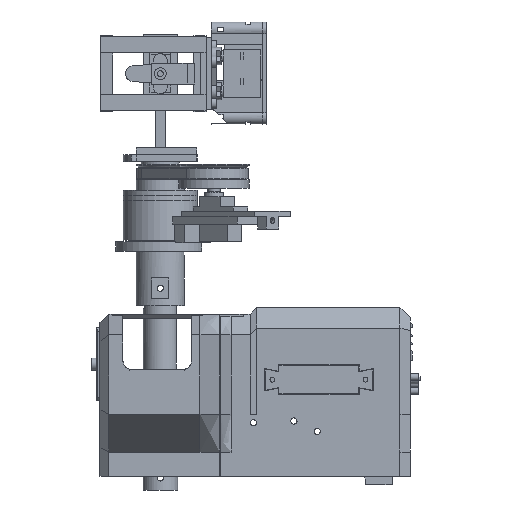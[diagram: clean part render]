
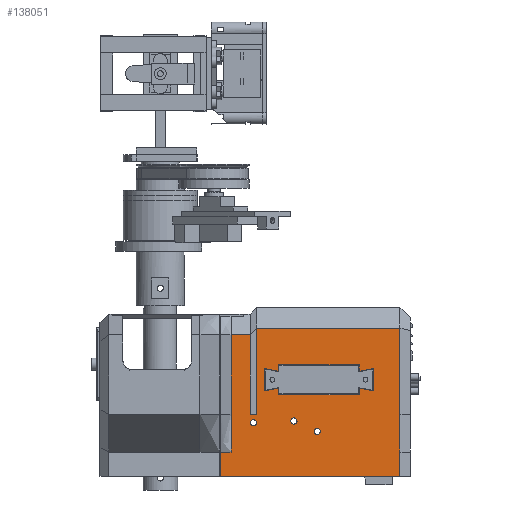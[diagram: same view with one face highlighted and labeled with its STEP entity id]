
A CAD part, left-side view. The second image highlights one B-rep face of the part: STEP entity #138051.
In plain terms, the highlighted planar face has unit normal (-1, 0, 0).
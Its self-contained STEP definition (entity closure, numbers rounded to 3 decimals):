
#137817 = VERTEX_POINT('',#137818);
#137818 = CARTESIAN_POINT('',(-9.,72.,50.));
#137825 = EDGE_CURVE('',#137817,#137826,#137828,.T.);
#137826 = VERTEX_POINT('',#137827);
#137827 = CARTESIAN_POINT('',(-9.,72.,28.));
#137828 = LINE('',#137829,#137830);
#137829 = CARTESIAN_POINT('',(-9.,72.,50.));
#137830 = VECTOR('',#137831,1.);
#137831 = DIRECTION('',(0.,0.,-1.));
#137833 = EDGE_CURVE('',#137826,#137834,#137836,.T.);
#137834 = VERTEX_POINT('',#137835);
#137835 = CARTESIAN_POINT('',(-9.,78.,28.));
#137836 = B_SPLINE_CURVE_WITH_KNOTS('',1,(#137837,#137838),
  .UNSPECIFIED.,.F.,.F.,(2,2),(0.,1.),.PIECEWISE_BEZIER_KNOTS.);
#137837 = CARTESIAN_POINT('',(-9.,72.,28.));
#137838 = CARTESIAN_POINT('',(-9.,90.,28.));
#137854 = VERTEX_POINT('',#137855);
#137855 = CARTESIAN_POINT('',(-9.,72.,96.));
#137862 = EDGE_CURVE('',#137854,#137817,#137863,.T.);
#137863 = LINE('',#137864,#137865);
#137864 = CARTESIAN_POINT('',(-9.,72.,96.));
#137865 = VECTOR('',#137866,1.);
#137866 = DIRECTION('',(0.,0.,-1.));
#137883 = EDGE_CURVE('',#137834,#137884,#137886,.T.);
#137884 = VERTEX_POINT('',#137885);
#137885 = CARTESIAN_POINT('',(-9.,78.,14.));
#137886 = LINE('',#137887,#137888);
#137887 = CARTESIAN_POINT('',(-9.,78.,-174.737));
#137888 = VECTOR('',#137889,1.);
#137889 = DIRECTION('',(0.,0.,-1.));
#138051 = ADVANCED_FACE('',(#138052,#138125,#138136,#138147,#138245),
  #138256,.T.);
#138052 = FACE_BOUND('',#138053,.T.);
#138053 = EDGE_LOOP('',(#138054,#138055,#138063,#138071,#138079,#138087,
    #138094,#138102,#138109,#138117,#138122,#138123,#138124));
#138054 = ORIENTED_EDGE('',*,*,#137883,.T.);
#138055 = ORIENTED_EDGE('',*,*,#138056,.T.);
#138056 = EDGE_CURVE('',#137884,#138057,#138059,.T.);
#138057 = VERTEX_POINT('',#138058);
#138058 = CARTESIAN_POINT('',(-9.,-26.,14.));
#138059 = LINE('',#138060,#138061);
#138060 = CARTESIAN_POINT('',(-9.,-11.5,14.));
#138061 = VECTOR('',#138062,1.);
#138062 = DIRECTION('',(0.,-1.,0.));
#138063 = ORIENTED_EDGE('',*,*,#138064,.F.);
#138064 = EDGE_CURVE('',#138065,#138057,#138067,.T.);
#138065 = VERTEX_POINT('',#138066);
#138066 = CARTESIAN_POINT('',(-9.,-26.,28.));
#138067 = LINE('',#138068,#138069);
#138068 = CARTESIAN_POINT('',(-9.,-26.,28.));
#138069 = VECTOR('',#138070,1.);
#138070 = DIRECTION('',(0.,0.,-1.));
#138071 = ORIENTED_EDGE('',*,*,#138072,.F.);
#138072 = EDGE_CURVE('',#138073,#138065,#138075,.T.);
#138073 = VERTEX_POINT('',#138074);
#138074 = CARTESIAN_POINT('',(-9.,-26.,50.));
#138075 = LINE('',#138076,#138077);
#138076 = CARTESIAN_POINT('',(-9.,-26.,50.));
#138077 = VECTOR('',#138078,1.);
#138078 = DIRECTION('',(0.,0.,-1.));
#138079 = ORIENTED_EDGE('',*,*,#138080,.F.);
#138080 = EDGE_CURVE('',#138081,#138073,#138083,.T.);
#138081 = VERTEX_POINT('',#138082);
#138082 = CARTESIAN_POINT('',(-9.,-26.,99.9));
#138083 = LINE('',#138084,#138085);
#138084 = CARTESIAN_POINT('',(-9.,-26.,99.9));
#138085 = VECTOR('',#138086,1.);
#138086 = DIRECTION('',(0.,0.,-1.));
#138087 = ORIENTED_EDGE('',*,*,#138088,.T.);
#138088 = EDGE_CURVE('',#138081,#138089,#138091,.T.);
#138089 = VERTEX_POINT('',#138090);
#138090 = CARTESIAN_POINT('',(-9.,57.,99.9));
#138091 = B_SPLINE_CURVE_WITH_KNOTS('',1,(#138092,#138093),
  .UNSPECIFIED.,.F.,.F.,(2,2),(0.,1.),.PIECEWISE_BEZIER_KNOTS.);
#138092 = CARTESIAN_POINT('',(-9.,-26.,99.9));
#138093 = CARTESIAN_POINT('',(-9.,57.,99.9));
#138094 = ORIENTED_EDGE('',*,*,#138095,.T.);
#138095 = EDGE_CURVE('',#138089,#138096,#138098,.T.);
#138096 = VERTEX_POINT('',#138097);
#138097 = CARTESIAN_POINT('',(-9.,57.,50.));
#138098 = LINE('',#138099,#138100);
#138099 = CARTESIAN_POINT('',(-9.,57.,99.9));
#138100 = VECTOR('',#138101,1.);
#138101 = DIRECTION('',(0.,0.,-1.));
#138102 = ORIENTED_EDGE('',*,*,#138103,.T.);
#138103 = EDGE_CURVE('',#138096,#138104,#138106,.T.);
#138104 = VERTEX_POINT('',#138105);
#138105 = CARTESIAN_POINT('',(-9.,60.9,50.));
#138106 = B_SPLINE_CURVE_WITH_KNOTS('',1,(#138107,#138108),
  .UNSPECIFIED.,.F.,.F.,(2,2),(0.,1.),.PIECEWISE_BEZIER_KNOTS.);
#138107 = CARTESIAN_POINT('',(-9.,57.,50.));
#138108 = CARTESIAN_POINT('',(-9.,60.9,50.));
#138109 = ORIENTED_EDGE('',*,*,#138110,.F.);
#138110 = EDGE_CURVE('',#138111,#138104,#138113,.T.);
#138111 = VERTEX_POINT('',#138112);
#138112 = CARTESIAN_POINT('',(-9.,60.9,96.));
#138113 = LINE('',#138114,#138115);
#138114 = CARTESIAN_POINT('',(-9.,60.9,96.));
#138115 = VECTOR('',#138116,1.);
#138116 = DIRECTION('',(0.,0.,-1.));
#138117 = ORIENTED_EDGE('',*,*,#138118,.T.);
#138118 = EDGE_CURVE('',#138111,#137854,#138119,.T.);
#138119 = B_SPLINE_CURVE_WITH_KNOTS('',1,(#138120,#138121),
  .UNSPECIFIED.,.F.,.F.,(2,2),(0.,1.),.PIECEWISE_BEZIER_KNOTS.);
#138120 = CARTESIAN_POINT('',(-9.,60.9,96.));
#138121 = CARTESIAN_POINT('',(-9.,72.,96.));
#138122 = ORIENTED_EDGE('',*,*,#137862,.T.);
#138123 = ORIENTED_EDGE('',*,*,#137825,.T.);
#138124 = ORIENTED_EDGE('',*,*,#137833,.T.);
#138125 = FACE_BOUND('',#138126,.T.);
#138126 = EDGE_LOOP('',(#138127));
#138127 = ORIENTED_EDGE('',*,*,#138128,.T.);
#138128 = EDGE_CURVE('',#138129,#138129,#138131,.T.);
#138129 = VERTEX_POINT('',#138130);
#138130 = CARTESIAN_POINT('',(-9.,59.,46.8));
#138131 = CIRCLE('',#138132,1.8);
#138132 = AXIS2_PLACEMENT_3D('',#138133,#138134,#138135);
#138133 = CARTESIAN_POINT('',(-9.,59.,45.));
#138134 = DIRECTION('',(1.,0.,-0.));
#138135 = DIRECTION('',(0.,0.,1.));
#138136 = FACE_BOUND('',#138137,.T.);
#138137 = EDGE_LOOP('',(#138138));
#138138 = ORIENTED_EDGE('',*,*,#138139,.T.);
#138139 = EDGE_CURVE('',#138140,#138140,#138142,.T.);
#138140 = VERTEX_POINT('',#138141);
#138141 = CARTESIAN_POINT('',(-9.,35.5,47.8));
#138142 = CIRCLE('',#138143,1.8);
#138143 = AXIS2_PLACEMENT_3D('',#138144,#138145,#138146);
#138144 = CARTESIAN_POINT('',(-9.,35.5,46.));
#138145 = DIRECTION('',(1.,0.,-0.));
#138146 = DIRECTION('',(0.,0.,1.));
#138147 = FACE_BOUND('',#138148,.T.);
#138148 = EDGE_LOOP('',(#138149,#138159,#138167,#138175,#138183,#138191,
    #138199,#138207,#138215,#138223,#138231,#138239));
#138149 = ORIENTED_EDGE('',*,*,#138150,.T.);
#138150 = EDGE_CURVE('',#138151,#138153,#138155,.T.);
#138151 = VERTEX_POINT('',#138152);
#138152 = CARTESIAN_POINT('',(-9.,-2.368,65.14));
#138153 = VERTEX_POINT('',#138154);
#138154 = CARTESIAN_POINT('',(-9.,-2.368,61.36));
#138155 = LINE('',#138156,#138157);
#138156 = CARTESIAN_POINT('',(-9.,-2.368,55.943));
#138157 = VECTOR('',#138158,1.);
#138158 = DIRECTION('',(0.,0.,-1.));
#138159 = ORIENTED_EDGE('',*,*,#138160,.T.);
#138160 = EDGE_CURVE('',#138153,#138161,#138163,.T.);
#138161 = VERTEX_POINT('',#138162);
#138162 = CARTESIAN_POINT('',(-9.,44.368,61.36));
#138163 = LINE('',#138164,#138165);
#138164 = CARTESIAN_POINT('',(-9.,47.178,61.36));
#138165 = VECTOR('',#138166,1.);
#138166 = DIRECTION('',(0.,1.,0.));
#138167 = ORIENTED_EDGE('',*,*,#138168,.T.);
#138168 = EDGE_CURVE('',#138161,#138169,#138171,.T.);
#138169 = VERTEX_POINT('',#138170);
#138170 = CARTESIAN_POINT('',(-9.,44.368,65.14));
#138171 = LINE('',#138172,#138173);
#138172 = CARTESIAN_POINT('',(-9.,44.368,57.833));
#138173 = VECTOR('',#138174,1.);
#138174 = DIRECTION('',(0.,0.,1.));
#138175 = ORIENTED_EDGE('',*,*,#138176,.T.);
#138176 = EDGE_CURVE('',#138169,#138177,#138179,.T.);
#138177 = VERTEX_POINT('',#138178);
#138178 = CARTESIAN_POINT('',(-9.,52.496,63.52));
#138179 = LINE('',#138180,#138181);
#138180 = CARTESIAN_POINT('',(-9.,52.536,63.512));
#138181 = VECTOR('',#138182,1.);
#138182 = DIRECTION('',(0.,0.981,-0.195));
#138183 = ORIENTED_EDGE('',*,*,#138184,.T.);
#138184 = EDGE_CURVE('',#138177,#138185,#138187,.T.);
#138185 = VERTEX_POINT('',#138186);
#138186 = CARTESIAN_POINT('',(-9.,52.496,76.48));
#138187 = LINE('',#138188,#138189);
#138188 = CARTESIAN_POINT('',(-9.,52.496,63.503));
#138189 = VECTOR('',#138190,1.);
#138190 = DIRECTION('',(0.,0.,1.));
#138191 = ORIENTED_EDGE('',*,*,#138192,.T.);
#138192 = EDGE_CURVE('',#138185,#138193,#138195,.T.);
#138193 = VERTEX_POINT('',#138194);
#138194 = CARTESIAN_POINT('',(-9.,44.368,74.86));
#138195 = LINE('',#138196,#138197);
#138196 = CARTESIAN_POINT('',(-9.,44.739,74.934));
#138197 = VECTOR('',#138198,1.);
#138198 = DIRECTION('',(0.,-0.981,-0.195));
#138199 = ORIENTED_EDGE('',*,*,#138200,.T.);
#138200 = EDGE_CURVE('',#138193,#138201,#138203,.T.);
#138201 = VERTEX_POINT('',#138202);
#138202 = CARTESIAN_POINT('',(-9.,44.368,78.64));
#138203 = LINE('',#138204,#138205);
#138204 = CARTESIAN_POINT('',(-9.,44.368,64.583));
#138205 = VECTOR('',#138206,1.);
#138206 = DIRECTION('',(0.,0.,1.));
#138207 = ORIENTED_EDGE('',*,*,#138208,.T.);
#138208 = EDGE_CURVE('',#138201,#138209,#138211,.T.);
#138209 = VERTEX_POINT('',#138210);
#138210 = CARTESIAN_POINT('',(-9.,-2.368,78.64));
#138211 = LINE('',#138212,#138213);
#138212 = CARTESIAN_POINT('',(-9.,23.81,78.64));
#138213 = VECTOR('',#138214,1.);
#138214 = DIRECTION('',(0.,-1.,0.));
#138215 = ORIENTED_EDGE('',*,*,#138216,.T.);
#138216 = EDGE_CURVE('',#138209,#138217,#138219,.T.);
#138217 = VERTEX_POINT('',#138218);
#138218 = CARTESIAN_POINT('',(-9.,-2.368,74.86));
#138219 = LINE('',#138220,#138221);
#138220 = CARTESIAN_POINT('',(-9.,-2.368,62.693));
#138221 = VECTOR('',#138222,1.);
#138222 = DIRECTION('',(0.,0.,-1.));
#138223 = ORIENTED_EDGE('',*,*,#138224,.T.);
#138224 = EDGE_CURVE('',#138217,#138225,#138227,.T.);
#138225 = VERTEX_POINT('',#138226);
#138226 = CARTESIAN_POINT('',(-9.,-10.496,76.48));
#138227 = LINE('',#138228,#138229);
#138228 = CARTESIAN_POINT('',(-9.,21.079,70.187));
#138229 = VECTOR('',#138230,1.);
#138230 = DIRECTION('',(0.,-0.981,0.195));
#138231 = ORIENTED_EDGE('',*,*,#138232,.T.);
#138232 = EDGE_CURVE('',#138225,#138233,#138235,.T.);
#138233 = VERTEX_POINT('',#138234);
#138234 = CARTESIAN_POINT('',(-9.,-10.496,63.52));
#138235 = LINE('',#138236,#138237);
#138236 = CARTESIAN_POINT('',(-9.,-10.496,57.023));
#138237 = VECTOR('',#138238,1.);
#138238 = DIRECTION('',(0.,0.,-1.));
#138239 = ORIENTED_EDGE('',*,*,#138240,.T.);
#138240 = EDGE_CURVE('',#138233,#138151,#138241,.T.);
#138241 = LINE('',#138242,#138243);
#138242 = CARTESIAN_POINT('',(-9.,21.409,69.879));
#138243 = VECTOR('',#138244,1.);
#138244 = DIRECTION('',(0.,0.981,0.195));
#138245 = FACE_BOUND('',#138246,.T.);
#138246 = EDGE_LOOP('',(#138247));
#138247 = ORIENTED_EDGE('',*,*,#138248,.T.);
#138248 = EDGE_CURVE('',#138249,#138249,#138251,.T.);
#138249 = VERTEX_POINT('',#138250);
#138250 = CARTESIAN_POINT('',(-9.,22.,41.8));
#138251 = CIRCLE('',#138252,1.8);
#138252 = AXIS2_PLACEMENT_3D('',#138253,#138254,#138255);
#138253 = CARTESIAN_POINT('',(-9.,22.,40.));
#138254 = DIRECTION('',(1.,0.,-0.));
#138255 = DIRECTION('',(0.,0.,1.));
#138256 = PLANE('',#138257);
#138257 = AXIS2_PLACEMENT_3D('',#138258,#138259,#138260);
#138258 = CARTESIAN_POINT('',(-9.,49.989,50.526));
#138259 = DIRECTION('',(-1.,-0.,-0.));
#138260 = DIRECTION('',(0.,0.,-1.));
